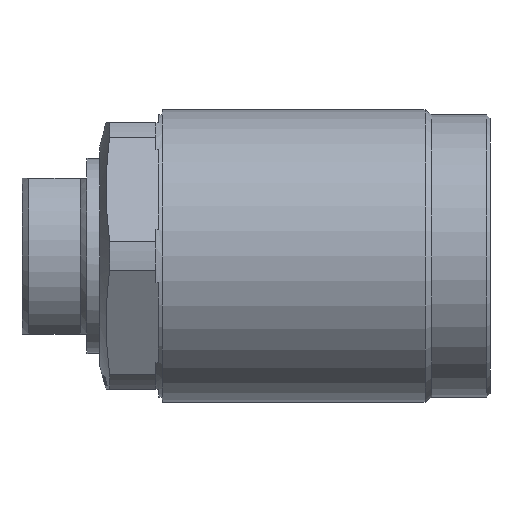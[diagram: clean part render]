
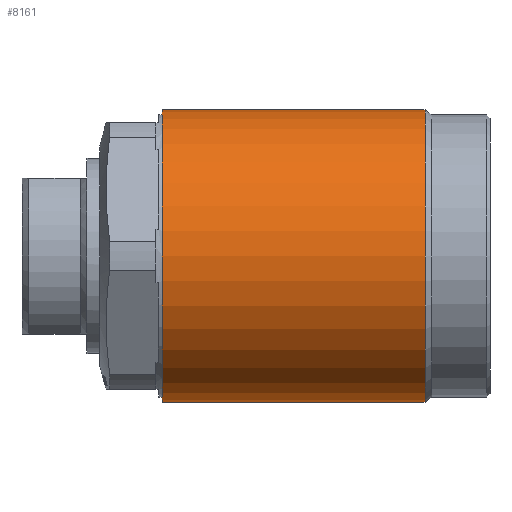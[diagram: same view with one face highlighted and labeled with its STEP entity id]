
A CAD part, left-side view. The second image highlights one B-rep face of the part: STEP entity #8161.
In plain terms, the highlighted cylindrical face has radius 22.5 mm (diameter 45 mm), a partial arc.
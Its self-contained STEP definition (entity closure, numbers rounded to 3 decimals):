
#25 = LINE ( 'NONE', #2465, #9957 ) ;
#410 = CARTESIAN_POINT ( 'NONE',  ( 0., -14.899, 0. ) ) ;
#1302 = ORIENTED_EDGE ( 'NONE', *, *, #2548, .T. ) ;
#1367 = DIRECTION ( 'NONE',  ( 0., 0., -1. ) ) ;
#1607 = CARTESIAN_POINT ( 'NONE',  ( 0., -54.764, 22.5 ) ) ;
#2101 = AXIS2_PLACEMENT_3D ( 'NONE', #9699, #10689, #2972 ) ;
#2456 = DIRECTION ( 'NONE',  ( 0., -1., 0. ) ) ;
#2465 = CARTESIAN_POINT ( 'NONE',  ( 0., -54.764, -22.5 ) ) ;
#2548 = EDGE_CURVE ( 'NONE', #3306, #9180, #9632, .T. ) ;
#2972 = DIRECTION ( 'NONE',  ( 0., 0., -1. ) ) ;
#3258 = AXIS2_PLACEMENT_3D ( 'NONE', #3518, #10242, #4468 ) ;
#3306 = VERTEX_POINT ( 'NONE', #3660 ) ;
#3518 = CARTESIAN_POINT ( 'NONE',  ( 0., 25.501, 0. ) ) ;
#3660 = CARTESIAN_POINT ( 'NONE',  ( 0., 25.501, 22.5 ) ) ;
#4308 = EDGE_CURVE ( 'NONE', #6473, #6807, #11586, .T. ) ;
#4468 = DIRECTION ( 'NONE',  ( 0., 0., -1. ) ) ;
#5477 = ORIENTED_EDGE ( 'NONE', *, *, #6528, .F. ) ;
#5901 = CYLINDRICAL_SURFACE ( 'NONE', #2101, 22.5 ) ;
#6447 = CARTESIAN_POINT ( 'NONE',  ( 0., 25.501, -22.5 ) ) ;
#6473 = VERTEX_POINT ( 'NONE', #12030 ) ;
#6528 = EDGE_CURVE ( 'NONE', #3306, #6473, #12130, .T. ) ;
#6591 = ORIENTED_EDGE ( 'NONE', *, *, #4308, .F. ) ;
#6807 = VERTEX_POINT ( 'NONE', #8182 ) ;
#7129 = DIRECTION ( 'NONE',  ( 0., -1., 0. ) ) ;
#8161 = ADVANCED_FACE ( 'NONE', ( #11346 ), #5901, .T. ) ;
#8182 = CARTESIAN_POINT ( 'NONE',  ( 0., -14.899, -22.5 ) ) ;
#8395 = ORIENTED_EDGE ( 'NONE', *, *, #9736, .T. ) ;
#8986 = AXIS2_PLACEMENT_3D ( 'NONE', #410, #7129, #1367 ) ;
#9180 = VERTEX_POINT ( 'NONE', #6447 ) ;
#9185 = DIRECTION ( 'NONE',  ( 0., -1., 0. ) ) ;
#9528 = VECTOR ( 'NONE', #2456, 1000. ) ;
#9632 = CIRCLE ( 'NONE', #3258, 22.5 ) ;
#9699 = CARTESIAN_POINT ( 'NONE',  ( 0., -54.764, 0. ) ) ;
#9736 = EDGE_CURVE ( 'NONE', #9180, #6807, #25, .T. ) ;
#9957 = VECTOR ( 'NONE', #9185, 1000. ) ;
#10242 = DIRECTION ( 'NONE',  ( 0., -1., 0. ) ) ;
#10689 = DIRECTION ( 'NONE',  ( 0., -1., 0. ) ) ;
#10692 = EDGE_LOOP ( 'NONE', ( #5477, #1302, #8395, #6591 ) ) ;
#11346 = FACE_OUTER_BOUND ( 'NONE', #10692, .T. ) ;
#11586 = CIRCLE ( 'NONE', #8986, 22.5 ) ;
#12030 = CARTESIAN_POINT ( 'NONE',  ( 0., -14.899, 22.5 ) ) ;
#12130 = LINE ( 'NONE', #1607, #9528 ) ;
